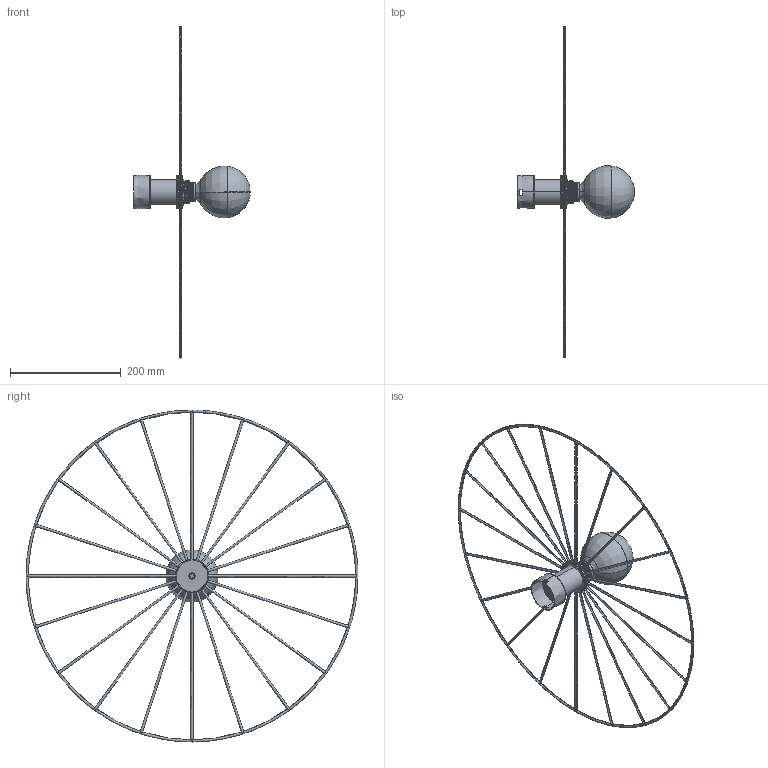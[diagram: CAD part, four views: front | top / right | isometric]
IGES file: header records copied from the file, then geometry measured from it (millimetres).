
Start section: SolidWorks IGES file using analytic representation for surfaces
Global section: file name: C:\Users\Agus\Desktop\Libreria modelos\1052 - Wheel\A1053+A1052\60\R1053-60.IGS; native system: SolidWorks 2016; preprocessor: SolidWorks 2016; author: Agus; date: 170601.104056; units: millimetre
Bounding box: 210.9 x 599.7 x 600 mm (x, y, z)
Surface area: 200096.7 mm2 (no closed solid volume)
Topology: 0 solids, 0 shells, 333 faces, 7308 edges, 7307 vertices
Faces by surface type: revolution 191, bspline 142
